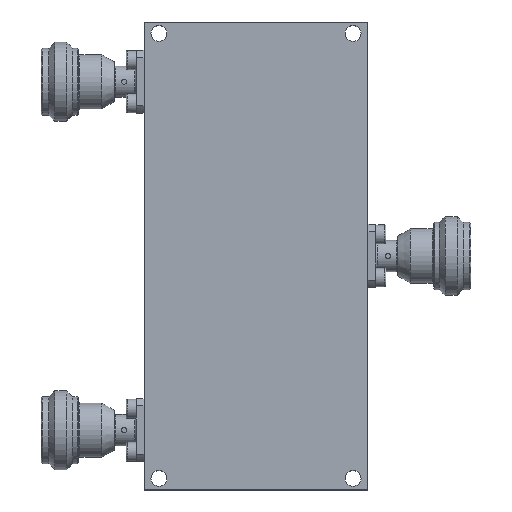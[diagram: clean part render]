
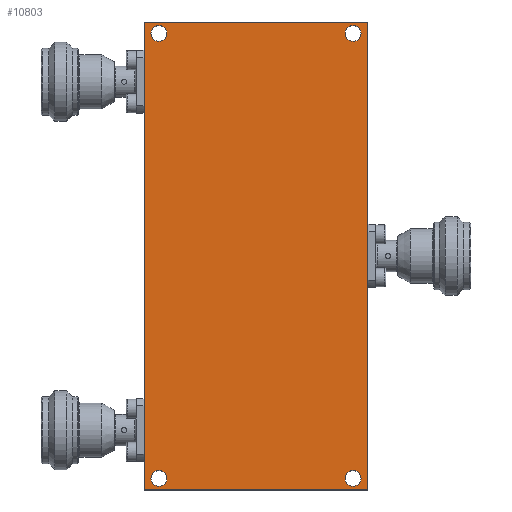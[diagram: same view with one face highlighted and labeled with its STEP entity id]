
A CAD part, top view. The second image highlights one B-rep face of the part: STEP entity #10803.
In plain terms, the highlighted planar face has unit normal (0, 0, 1).
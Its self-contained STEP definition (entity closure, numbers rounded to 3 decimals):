
#590=CIRCLE('',#11379,1.6);
#591=CIRCLE('',#11380,1.6);
#592=CIRCLE('',#11381,1.6);
#593=CIRCLE('',#11382,1.6);
#993=ORIENTED_EDGE('',*,*,#2891,.T.);
#994=ORIENTED_EDGE('',*,*,#2892,.T.);
#995=ORIENTED_EDGE('',*,*,#2893,.T.);
#996=ORIENTED_EDGE('',*,*,#2894,.T.);
#997=ORIENTED_EDGE('',*,*,#2895,.F.);
#998=ORIENTED_EDGE('',*,*,#2896,.F.);
#999=ORIENTED_EDGE('',*,*,#2897,.F.);
#1000=ORIENTED_EDGE('',*,*,#2898,.F.);
#2891=EDGE_CURVE('',#3840,#3841,#4573,.T.);
#2892=EDGE_CURVE('',#3841,#3842,#4574,.T.);
#2893=EDGE_CURVE('',#3842,#3843,#4575,.T.);
#2894=EDGE_CURVE('',#3843,#3840,#4576,.T.);
#2895=EDGE_CURVE('',#3844,#3844,#590,.T.);
#2896=EDGE_CURVE('',#3845,#3845,#591,.T.);
#2897=EDGE_CURVE('',#3846,#3846,#592,.T.);
#2898=EDGE_CURVE('',#3847,#3847,#593,.T.);
#3840=VERTEX_POINT('',#14516);
#3841=VERTEX_POINT('',#14517);
#3842=VERTEX_POINT('',#14519);
#3843=VERTEX_POINT('',#14521);
#3844=VERTEX_POINT('',#14524);
#3845=VERTEX_POINT('',#14526);
#3846=VERTEX_POINT('',#14528);
#3847=VERTEX_POINT('',#14530);
#4573=LINE('',#14515,#4895);
#4574=LINE('',#14518,#4896);
#4575=LINE('',#14520,#4897);
#4576=LINE('',#14522,#4898);
#4895=VECTOR('',#12319,1000.);
#4896=VECTOR('',#12320,1000.);
#4897=VECTOR('',#12321,1000.);
#4898=VECTOR('',#12322,1000.);
#5217=EDGE_LOOP('',(#993,#994,#995,#996));
#5218=EDGE_LOOP('',(#997));
#5219=EDGE_LOOP('',(#998));
#5220=EDGE_LOOP('',(#999));
#5221=EDGE_LOOP('',(#1000));
#5993=FACE_BOUND('',#5217,.T.);
#5994=FACE_BOUND('',#5218,.T.);
#5995=FACE_BOUND('',#5219,.T.);
#5996=FACE_BOUND('',#5220,.T.);
#5997=FACE_BOUND('',#5221,.T.);
#6803=PLANE('',#11378);
#10803=ADVANCED_FACE('',(#5993,#5994,#5995,#5996,#5997),#6803,.T.);
#11378=AXIS2_PLACEMENT_3D('',#14514,#12317,#12318);
#11379=AXIS2_PLACEMENT_3D('',#14523,#12323,#12324);
#11380=AXIS2_PLACEMENT_3D('',#14525,#12325,#12326);
#11381=AXIS2_PLACEMENT_3D('',#14527,#12327,#12328);
#11382=AXIS2_PLACEMENT_3D('',#14529,#12329,#12330);
#12317=DIRECTION('',(0.,0.,1.));
#12318=DIRECTION('',(1.,0.,0.));
#12319=DIRECTION('',(0.,1.,0.));
#12320=DIRECTION('',(-1.,0.,0.));
#12321=DIRECTION('',(0.,-1.,0.));
#12322=DIRECTION('',(1.,0.,0.));
#12323=DIRECTION('',(0.,0.,1.));
#12324=DIRECTION('',(1.,0.,0.));
#12325=DIRECTION('',(0.,0.,1.));
#12326=DIRECTION('',(1.,0.,0.));
#12327=DIRECTION('',(0.,0.,1.));
#12328=DIRECTION('',(1.,0.,0.));
#12329=DIRECTION('',(0.,0.,1.));
#12330=DIRECTION('',(1.,0.,0.));
#14514=CARTESIAN_POINT('',(0.,0.,25.4));
#14515=CARTESIAN_POINT('',(22.5,-47.,25.4));
#14516=CARTESIAN_POINT('',(22.5,-47.,25.4));
#14517=CARTESIAN_POINT('',(22.5,47.,25.4));
#14518=CARTESIAN_POINT('',(22.5,47.,25.4));
#14519=CARTESIAN_POINT('',(-22.5,47.,25.4));
#14520=CARTESIAN_POINT('',(-22.5,47.,25.4));
#14521=CARTESIAN_POINT('',(-22.5,-47.,25.4));
#14522=CARTESIAN_POINT('',(-22.5,-47.,25.4));
#14523=CARTESIAN_POINT('',(-19.5,44.7,25.4));
#14524=CARTESIAN_POINT('',(-17.9,44.7,25.4));
#14525=CARTESIAN_POINT('',(19.5,44.7,25.4));
#14526=CARTESIAN_POINT('',(21.1,44.7,25.4));
#14527=CARTESIAN_POINT('',(19.5,-44.7,25.4));
#14528=CARTESIAN_POINT('',(21.1,-44.7,25.4));
#14529=CARTESIAN_POINT('',(-19.5,-44.7,25.4));
#14530=CARTESIAN_POINT('',(-17.9,-44.7,25.4));
